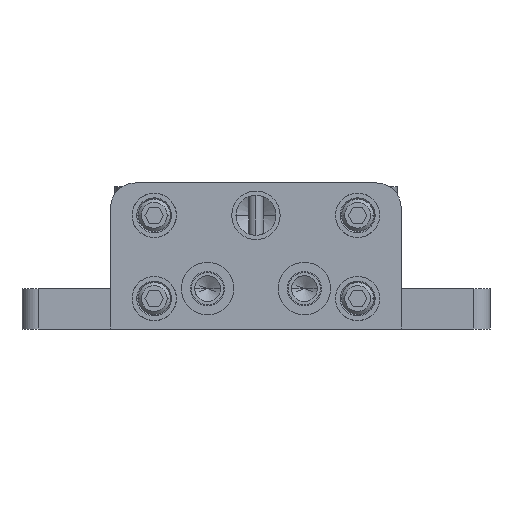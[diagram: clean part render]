
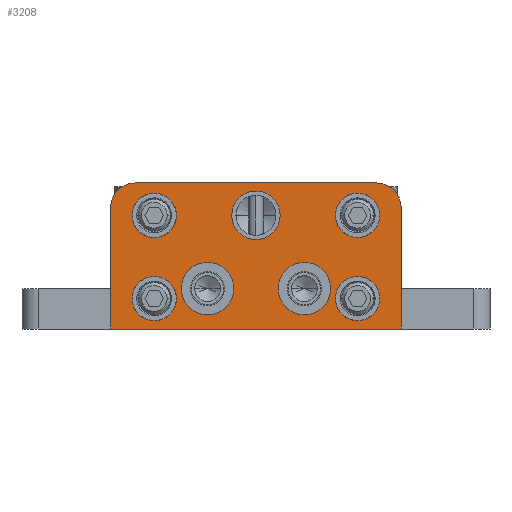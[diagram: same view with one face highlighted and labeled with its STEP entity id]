
A CAD part, front view. The second image highlights one B-rep face of the part: STEP entity #3208.
In plain terms, the highlighted planar face has unit normal (0, -1, 0).
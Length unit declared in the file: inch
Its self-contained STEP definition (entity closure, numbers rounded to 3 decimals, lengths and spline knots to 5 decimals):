
#2601=DIRECTION('',(1.,0.,0.));
#2602=VECTOR('',#2601,2.25);
#2603=CARTESIAN_POINT('',(0.687,-0.5,0.));
#2604=LINE('',#2603,#2602);
#2619=DIRECTION('',(0.,0.,-1.));
#2620=VECTOR('',#2619,0.941);
#2621=CARTESIAN_POINT('',(0.687,-0.5,0.941));
#2622=LINE('',#2621,#2620);
#2635=DIRECTION('',(-1.,0.,0.));
#2636=VECTOR('',#2635,1.87);
#2637=CARTESIAN_POINT('',(2.747,-0.5,1.131));
#2638=LINE('',#2637,#2636);
#2655=DIRECTION('',(0.,0.,1.));
#2656=VECTOR('',#2655,0.941);
#2657=CARTESIAN_POINT('',(2.937,-0.5,0.));
#2658=LINE('',#2657,#2656);
#2663=CARTESIAN_POINT('',(0.877,-0.5,0.941));
#2664=DIRECTION('',(0.,1.,0.));
#2665=DIRECTION('',(-1.,0.,0.));
#2666=AXIS2_PLACEMENT_3D('',#2663,#2664,#2665);
#2668=CARTESIAN_POINT('',(2.747,-0.5,0.941));
#2669=DIRECTION('',(0.,1.,0.));
#2670=DIRECTION('',(0.,0.,1.));
#2671=AXIS2_PLACEMENT_3D('',#2668,#2669,#2670);
#2673=CARTESIAN_POINT('',(2.6,-0.5,0.881));
#2674=DIRECTION('',(0.,-1.,0.));
#2675=DIRECTION('',(1.,0.,0.));
#2676=AXIS2_PLACEMENT_3D('',#2673,#2674,#2675);
#2678=CARTESIAN_POINT('',(2.6,-0.5,0.881));
#2679=DIRECTION('',(0.,-1.,0.));
#2680=DIRECTION('',(-1.,0.,0.));
#2681=AXIS2_PLACEMENT_3D('',#2678,#2679,#2680);
#2683=CARTESIAN_POINT('',(1.024,-0.5,0.881));
#2684=DIRECTION('',(0.,-1.,0.));
#2685=DIRECTION('',(1.,0.,0.));
#2686=AXIS2_PLACEMENT_3D('',#2683,#2684,#2685);
#2688=CARTESIAN_POINT('',(1.024,-0.5,0.881));
#2689=DIRECTION('',(0.,-1.,0.));
#2690=DIRECTION('',(-1.,0.,0.));
#2691=AXIS2_PLACEMENT_3D('',#2688,#2689,#2690);
#2693=CARTESIAN_POINT('',(2.6,-0.5,0.236));
#2694=DIRECTION('',(0.,-1.,0.));
#2695=DIRECTION('',(1.,0.,0.));
#2696=AXIS2_PLACEMENT_3D('',#2693,#2694,#2695);
#2698=CARTESIAN_POINT('',(2.6,-0.5,0.236));
#2699=DIRECTION('',(0.,-1.,0.));
#2700=DIRECTION('',(-1.,0.,0.));
#2701=AXIS2_PLACEMENT_3D('',#2698,#2699,#2700);
#2703=CARTESIAN_POINT('',(1.024,-0.5,0.236));
#2704=DIRECTION('',(0.,-1.,0.));
#2705=DIRECTION('',(1.,0.,0.));
#2706=AXIS2_PLACEMENT_3D('',#2703,#2704,#2705);
#2708=CARTESIAN_POINT('',(1.024,-0.5,0.236));
#2709=DIRECTION('',(0.,-1.,0.));
#2710=DIRECTION('',(-1.,0.,0.));
#2711=AXIS2_PLACEMENT_3D('',#2708,#2709,#2710);
#2713=CARTESIAN_POINT('',(1.812,-0.5,0.881));
#2714=DIRECTION('',(0.,-1.,0.));
#2715=DIRECTION('',(1.,0.,0.));
#2716=AXIS2_PLACEMENT_3D('',#2713,#2714,#2715);
#2718=CARTESIAN_POINT('',(1.812,-0.5,0.881));
#2719=DIRECTION('',(0.,-1.,0.));
#2720=DIRECTION('',(-1.,0.,0.));
#2721=AXIS2_PLACEMENT_3D('',#2718,#2719,#2720);
#2723=CARTESIAN_POINT('',(1.437,-0.5,0.313));
#2724=DIRECTION('',(0.,-1.,0.));
#2725=DIRECTION('',(1.,0.,0.));
#2726=AXIS2_PLACEMENT_3D('',#2723,#2724,#2725);
#2728=CARTESIAN_POINT('',(1.437,-0.5,0.313));
#2729=DIRECTION('',(0.,-1.,0.));
#2730=DIRECTION('',(-1.,0.,0.));
#2731=AXIS2_PLACEMENT_3D('',#2728,#2729,#2730);
#2733=CARTESIAN_POINT('',(2.187,-0.5,0.313));
#2734=DIRECTION('',(0.,-1.,0.));
#2735=DIRECTION('',(1.,0.,0.));
#2736=AXIS2_PLACEMENT_3D('',#2733,#2734,#2735);
#2738=CARTESIAN_POINT('',(2.187,-0.5,0.313));
#2739=DIRECTION('',(0.,-1.,0.));
#2740=DIRECTION('',(-1.,0.,0.));
#2741=AXIS2_PLACEMENT_3D('',#2738,#2739,#2740);
#2921=CARTESIAN_POINT('',(2.4281,-0.5,0.881));
#2922=VERTEX_POINT('',#2921);
#2923=CARTESIAN_POINT('',(2.7719,-0.5,0.881));
#2924=VERTEX_POINT('',#2923);
#2925=CARTESIAN_POINT('',(1.1959,-0.5,0.881));
#2926=CARTESIAN_POINT('',(0.8521,-0.5,0.881));
#2927=VERTEX_POINT('',#2925);
#2928=VERTEX_POINT('',#2926);
#2929=CARTESIAN_POINT('',(2.7719,-0.5,0.236));
#2930=CARTESIAN_POINT('',(2.4281,-0.5,0.236));
#2931=VERTEX_POINT('',#2929);
#2932=VERTEX_POINT('',#2930);
#2933=CARTESIAN_POINT('',(0.687,-0.5,0.));
#2934=CARTESIAN_POINT('',(2.937,-0.5,0.));
#2935=VERTEX_POINT('',#2933);
#2936=VERTEX_POINT('',#2934);
#2937=CARTESIAN_POINT('',(0.687,-0.5,0.941));
#2938=VERTEX_POINT('',#2937);
#2939=CARTESIAN_POINT('',(0.877,-0.5,1.131));
#2940=VERTEX_POINT('',#2939);
#2941=CARTESIAN_POINT('',(2.747,-0.5,1.131));
#2942=VERTEX_POINT('',#2941);
#2943=CARTESIAN_POINT('',(2.937,-0.5,0.941));
#2944=VERTEX_POINT('',#2943);
#2945=CARTESIAN_POINT('',(1.1959,-0.5,0.236));
#2946=CARTESIAN_POINT('',(0.8521,-0.5,0.236));
#2947=VERTEX_POINT('',#2945);
#2948=VERTEX_POINT('',#2946);
#2949=CARTESIAN_POINT('',(1.9995,-0.5,0.881));
#2950=CARTESIAN_POINT('',(1.6245,-0.5,0.881));
#2951=VERTEX_POINT('',#2949);
#2952=VERTEX_POINT('',#2950);
#2953=CARTESIAN_POINT('',(1.64,-0.5,0.313));
#2954=CARTESIAN_POINT('',(1.234,-0.5,0.313));
#2955=VERTEX_POINT('',#2953);
#2956=VERTEX_POINT('',#2954);
#2957=CARTESIAN_POINT('',(2.39,-0.5,0.313));
#2958=CARTESIAN_POINT('',(1.984,-0.5,0.313));
#2959=VERTEX_POINT('',#2957);
#2960=VERTEX_POINT('',#2958);
#3154=CARTESIAN_POINT('',(1.812,-0.5,0.5655));
#3155=DIRECTION('',(0.,1.,0.));
#3156=DIRECTION('',(1.,0.,0.));
#3157=AXIS2_PLACEMENT_3D('',#3154,#3155,#3156);
#3158=PLANE('',#3157);
#3159=ORIENTED_EDGE('',*,*,#3072,.F.);
#3160=ORIENTED_EDGE('',*,*,#3093,.F.);
#3161=ORIENTED_EDGE('',*,*,#3107,.T.);
#3162=ORIENTED_EDGE('',*,*,#3121,.F.);
#3163=ORIENTED_EDGE('',*,*,#3135,.T.);
#3164=ORIENTED_EDGE('',*,*,#3148,.F.);
#3165=EDGE_LOOP('',(#3159,#3160,#3161,#3162,#3163,#3164));
#3166=FACE_OUTER_BOUND('',#3165,.F.);
#3168=ORIENTED_EDGE('',*,*,#3167,.T.);
#3170=ORIENTED_EDGE('',*,*,#3169,.T.);
#3171=EDGE_LOOP('',(#3168,#3170));
#3172=FACE_BOUND('',#3171,.F.);
#3174=ORIENTED_EDGE('',*,*,#3173,.T.);
#3176=ORIENTED_EDGE('',*,*,#3175,.T.);
#3177=EDGE_LOOP('',(#3174,#3176));
#3178=FACE_BOUND('',#3177,.F.);
#3180=ORIENTED_EDGE('',*,*,#3179,.T.);
#3182=ORIENTED_EDGE('',*,*,#3181,.T.);
#3183=EDGE_LOOP('',(#3180,#3182));
#3184=FACE_BOUND('',#3183,.F.);
#3186=ORIENTED_EDGE('',*,*,#3185,.T.);
#3188=ORIENTED_EDGE('',*,*,#3187,.T.);
#3189=EDGE_LOOP('',(#3186,#3188));
#3190=FACE_BOUND('',#3189,.F.);
#3191=ORIENTED_EDGE('',*,*,#2996,.T.);
#3193=ORIENTED_EDGE('',*,*,#3192,.T.);
#3194=EDGE_LOOP('',(#3191,#3193));
#3195=FACE_BOUND('',#3194,.F.);
#3197=ORIENTED_EDGE('',*,*,#3196,.T.);
#3199=ORIENTED_EDGE('',*,*,#3198,.T.);
#3200=EDGE_LOOP('',(#3197,#3199));
#3201=FACE_BOUND('',#3200,.F.);
#3203=ORIENTED_EDGE('',*,*,#3202,.T.);
#3205=ORIENTED_EDGE('',*,*,#3204,.T.);
#3206=EDGE_LOOP('',(#3203,#3205));
#3207=FACE_BOUND('',#3206,.F.);
#2667=CIRCLE('',#2666,0.19);
#2672=CIRCLE('',#2671,0.19);
#2677=CIRCLE('',#2676,0.1719);
#2682=CIRCLE('',#2681,0.1719);
#2687=CIRCLE('',#2686,0.1719);
#2692=CIRCLE('',#2691,0.1719);
#2697=CIRCLE('',#2696,0.1719);
#2702=CIRCLE('',#2701,0.1719);
#2707=CIRCLE('',#2706,0.1719);
#2712=CIRCLE('',#2711,0.1719);
#2717=CIRCLE('',#2716,0.1875);
#2722=CIRCLE('',#2721,0.1875);
#2727=CIRCLE('',#2726,0.203);
#2732=CIRCLE('',#2731,0.203);
#2737=CIRCLE('',#2736,0.203);
#2742=CIRCLE('',#2741,0.203);
#2996=EDGE_CURVE('',#2951,#2952,#2717,.T.);
#3072=EDGE_CURVE('',#2935,#2936,#2604,.T.);
#3093=EDGE_CURVE('',#2938,#2935,#2622,.T.);
#3107=EDGE_CURVE('',#2938,#2940,#2667,.T.);
#3121=EDGE_CURVE('',#2942,#2940,#2638,.T.);
#3135=EDGE_CURVE('',#2942,#2944,#2672,.T.);
#3148=EDGE_CURVE('',#2936,#2944,#2658,.T.);
#3167=EDGE_CURVE('',#2924,#2922,#2677,.T.);
#3169=EDGE_CURVE('',#2922,#2924,#2682,.T.);
#3173=EDGE_CURVE('',#2927,#2928,#2687,.T.);
#3175=EDGE_CURVE('',#2928,#2927,#2692,.T.);
#3179=EDGE_CURVE('',#2931,#2932,#2697,.T.);
#3181=EDGE_CURVE('',#2932,#2931,#2702,.T.);
#3185=EDGE_CURVE('',#2947,#2948,#2707,.T.);
#3187=EDGE_CURVE('',#2948,#2947,#2712,.T.);
#3192=EDGE_CURVE('',#2952,#2951,#2722,.T.);
#3196=EDGE_CURVE('',#2955,#2956,#2727,.T.);
#3198=EDGE_CURVE('',#2956,#2955,#2732,.T.);
#3202=EDGE_CURVE('',#2959,#2960,#2737,.T.);
#3204=EDGE_CURVE('',#2960,#2959,#2742,.T.);
#3208=ADVANCED_FACE('',(#3166,#3172,#3178,#3184,#3190,#3195,#3201,#3207),#3158,
.F.);
